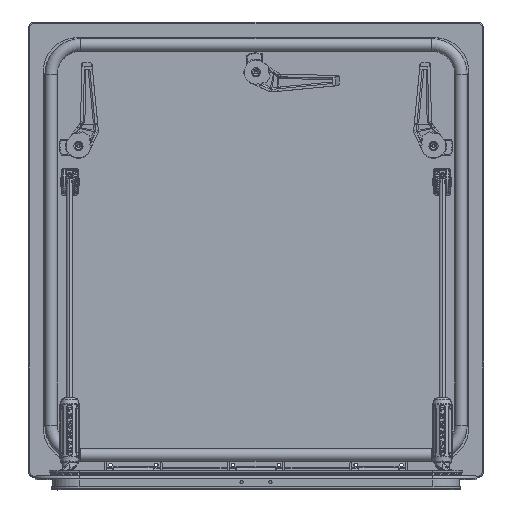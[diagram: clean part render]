
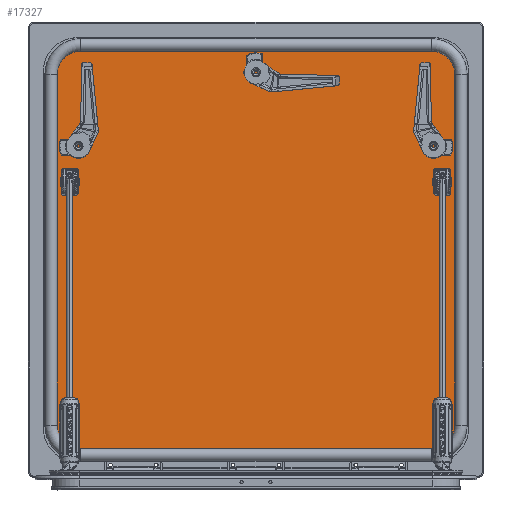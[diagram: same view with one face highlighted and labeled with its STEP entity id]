
A CAD part, top view. The second image highlights one B-rep face of the part: STEP entity #17327.
In plain terms, the highlighted planar face has unit normal (0, 0.005, 1) as drawn and (0, -1, 0) by its records, which use the part's own axes.
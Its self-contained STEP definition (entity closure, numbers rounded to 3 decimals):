
#15138=DIRECTION('',(-1.,0.,0.));
#15139=VECTOR('',#15138,547.);
#15140=CARTESIAN_POINT('',(273.5,0.,-303.5));
#15141=LINE('',#15140,#15139);
#15142=CARTESIAN_POINT('',(-273.5,0.,-272.5));
#15143=DIRECTION('',(0.,-1.,0.));
#15144=DIRECTION('',(-1.,0.,0.));
#15145=AXIS2_PLACEMENT_3D('',#15142,#15143,#15144);
#15147=DIRECTION('',(0.,0.,1.));
#15148=VECTOR('',#15147,545.);
#15149=CARTESIAN_POINT('',(-304.5,0.,-272.5));
#15150=LINE('',#15149,#15148);
#15151=CARTESIAN_POINT('',(-273.5,0.,272.5));
#15152=DIRECTION('',(0.,-1.,0.));
#15153=DIRECTION('',(0.,0.,1.));
#15154=AXIS2_PLACEMENT_3D('',#15151,#15152,#15153);
#15156=DIRECTION('',(1.,0.,0.));
#15157=VECTOR('',#15156,547.);
#15158=CARTESIAN_POINT('',(-273.5,0.,303.5));
#15159=LINE('',#15158,#15157);
#15160=CARTESIAN_POINT('',(273.5,0.,272.5));
#15161=DIRECTION('',(0.,-1.,0.));
#15162=DIRECTION('',(1.,0.,0.));
#15163=AXIS2_PLACEMENT_3D('',#15160,#15161,#15162);
#15165=DIRECTION('',(0.,0.,-1.));
#15166=VECTOR('',#15165,545.);
#15167=CARTESIAN_POINT('',(304.5,0.,272.5));
#15168=LINE('',#15167,#15166);
#15169=CARTESIAN_POINT('',(273.5,0.,-272.5));
#15170=DIRECTION('',(0.,-1.,0.));
#15171=DIRECTION('',(0.,0.,-1.));
#15172=AXIS2_PLACEMENT_3D('',#15169,#15170,#15171);
#15238=CARTESIAN_POINT('',(294.,0.,87.));
#15239=DIRECTION('',(0.,-1.,0.));
#15240=DIRECTION('',(0.,0.,-1.));
#15241=AXIS2_PLACEMENT_3D('',#15238,#15239,#15240);
#15243=DIRECTION('',(0.,0.,1.));
#15244=VECTOR('',#15243,34.);
#15245=CARTESIAN_POINT('',(298.,0.,87.));
#15246=LINE('',#15245,#15244);
#15247=CARTESIAN_POINT('',(294.,0.,121.));
#15248=DIRECTION('',(0.,-1.,0.));
#15249=DIRECTION('',(1.,0.,0.));
#15250=AXIS2_PLACEMENT_3D('',#15247,#15248,#15249);
#15252=DIRECTION('',(-1.,0.,0.));
#15253=VECTOR('',#15252,18.);
#15254=CARTESIAN_POINT('',(294.,0.,125.));
#15255=LINE('',#15254,#15253);
#15256=CARTESIAN_POINT('',(276.,0.,121.));
#15257=DIRECTION('',(0.,-1.,0.));
#15258=DIRECTION('',(0.,0.,1.));
#15259=AXIS2_PLACEMENT_3D('',#15256,#15257,#15258);
#15261=DIRECTION('',(0.,0.,-1.));
#15262=VECTOR('',#15261,34.);
#15263=CARTESIAN_POINT('',(272.,0.,121.));
#15264=LINE('',#15263,#15262);
#15265=CARTESIAN_POINT('',(276.,0.,87.));
#15266=DIRECTION('',(0.,-1.,0.));
#15267=DIRECTION('',(-1.,0.,0.));
#15268=AXIS2_PLACEMENT_3D('',#15265,#15266,#15267);
#15270=DIRECTION('',(1.,0.,0.));
#15271=VECTOR('',#15270,18.);
#15272=CARTESIAN_POINT('',(276.,0.,83.));
#15273=LINE('',#15272,#15271);
#15274=CARTESIAN_POINT('',(-294.,0.,87.));
#15275=DIRECTION('',(0.,1.,0.));
#15276=DIRECTION('',(0.,0.,-1.));
#15277=AXIS2_PLACEMENT_3D('',#15274,#15275,#15276);
#15279=DIRECTION('',(-1.,0.,0.));
#15280=VECTOR('',#15279,18.);
#15281=CARTESIAN_POINT('',(-276.,0.,83.));
#15282=LINE('',#15281,#15280);
#15283=CARTESIAN_POINT('',(-276.,0.,87.));
#15284=DIRECTION('',(0.,1.,0.));
#15285=DIRECTION('',(1.,0.,0.));
#15286=AXIS2_PLACEMENT_3D('',#15283,#15284,#15285);
#15288=DIRECTION('',(0.,0.,-1.));
#15289=VECTOR('',#15288,34.);
#15290=CARTESIAN_POINT('',(-272.,0.,121.));
#15291=LINE('',#15290,#15289);
#15292=CARTESIAN_POINT('',(-276.,0.,121.));
#15293=DIRECTION('',(0.,1.,0.));
#15294=DIRECTION('',(0.,0.,1.));
#15295=AXIS2_PLACEMENT_3D('',#15292,#15293,#15294);
#15297=DIRECTION('',(1.,0.,0.));
#15298=VECTOR('',#15297,18.);
#15299=CARTESIAN_POINT('',(-294.,0.,125.));
#15300=LINE('',#15299,#15298);
#15301=CARTESIAN_POINT('',(-294.,0.,121.));
#15302=DIRECTION('',(0.,1.,0.));
#15303=DIRECTION('',(-1.,0.,0.));
#15304=AXIS2_PLACEMENT_3D('',#15301,#15302,#15303);
#15306=DIRECTION('',(0.,0.,1.));
#15307=VECTOR('',#15306,34.);
#15308=CARTESIAN_POINT('',(-298.,0.,87.));
#15309=LINE('',#15308,#15307);
#16904=CARTESIAN_POINT('',(273.5,0.,-303.5));
#16905=CARTESIAN_POINT('',(-273.5,0.,-303.5));
#16906=VERTEX_POINT('',#16904);
#16907=VERTEX_POINT('',#16905);
#16908=CARTESIAN_POINT('',(-304.5,0.,-272.5));
#16909=VERTEX_POINT('',#16908);
#16910=CARTESIAN_POINT('',(-304.5,0.,272.5));
#16911=VERTEX_POINT('',#16910);
#16912=CARTESIAN_POINT('',(-273.5,0.,303.5));
#16913=VERTEX_POINT('',#16912);
#16914=CARTESIAN_POINT('',(273.5,0.,303.5));
#16915=VERTEX_POINT('',#16914);
#16916=CARTESIAN_POINT('',(304.5,0.,272.5));
#16917=VERTEX_POINT('',#16916);
#16918=CARTESIAN_POINT('',(304.5,0.,-272.5));
#16919=VERTEX_POINT('',#16918);
#17172=CARTESIAN_POINT('',(294.,0.,83.));
#17173=CARTESIAN_POINT('',(298.,0.,87.));
#17174=VERTEX_POINT('',#17172);
#17175=VERTEX_POINT('',#17173);
#17176=CARTESIAN_POINT('',(298.,0.,121.));
#17177=VERTEX_POINT('',#17176);
#17178=CARTESIAN_POINT('',(294.,0.,125.));
#17179=VERTEX_POINT('',#17178);
#17180=CARTESIAN_POINT('',(276.,0.,125.));
#17181=VERTEX_POINT('',#17180);
#17182=CARTESIAN_POINT('',(272.,0.,121.));
#17183=VERTEX_POINT('',#17182);
#17184=CARTESIAN_POINT('',(272.,0.,87.));
#17185=VERTEX_POINT('',#17184);
#17186=CARTESIAN_POINT('',(276.,0.,83.));
#17187=VERTEX_POINT('',#17186);
#17212=CARTESIAN_POINT('',(-294.,0.,83.));
#17213=VERTEX_POINT('',#17212);
#17214=CARTESIAN_POINT('',(-298.,0.,87.));
#17215=VERTEX_POINT('',#17214);
#17216=CARTESIAN_POINT('',(-298.,0.,121.));
#17217=VERTEX_POINT('',#17216);
#17218=CARTESIAN_POINT('',(-294.,0.,125.));
#17219=VERTEX_POINT('',#17218);
#17220=CARTESIAN_POINT('',(-276.,0.,125.));
#17221=VERTEX_POINT('',#17220);
#17222=CARTESIAN_POINT('',(-272.,0.,121.));
#17223=VERTEX_POINT('',#17222);
#17224=CARTESIAN_POINT('',(-272.,0.,87.));
#17225=VERTEX_POINT('',#17224);
#17226=CARTESIAN_POINT('',(-276.,0.,83.));
#17227=VERTEX_POINT('',#17226);
#17268=CARTESIAN_POINT('',(0.,0.,0.));
#17269=DIRECTION('',(0.,1.,0.));
#17270=DIRECTION('',(1.,0.,0.));
#17271=AXIS2_PLACEMENT_3D('',#17268,#17269,#17270);
#17272=PLANE('',#17271);
#17274=ORIENTED_EDGE('',*,*,#17273,.T.);
#17276=ORIENTED_EDGE('',*,*,#17275,.F.);
#17278=ORIENTED_EDGE('',*,*,#17277,.T.);
#17280=ORIENTED_EDGE('',*,*,#17279,.F.);
#17282=ORIENTED_EDGE('',*,*,#17281,.T.);
#17284=ORIENTED_EDGE('',*,*,#17283,.F.);
#17286=ORIENTED_EDGE('',*,*,#17285,.T.);
#17288=ORIENTED_EDGE('',*,*,#17287,.F.);
#17289=EDGE_LOOP('',(#17274,#17276,#17278,#17280,#17282,#17284,#17286,#17288));
#17290=FACE_OUTER_BOUND('',#17289,.F.);
#17292=ORIENTED_EDGE('',*,*,#17291,.T.);
#17294=ORIENTED_EDGE('',*,*,#17293,.T.);
#17296=ORIENTED_EDGE('',*,*,#17295,.T.);
#17298=ORIENTED_EDGE('',*,*,#17297,.T.);
#17300=ORIENTED_EDGE('',*,*,#17299,.T.);
#17302=ORIENTED_EDGE('',*,*,#17301,.T.);
#17304=ORIENTED_EDGE('',*,*,#17303,.T.);
#17306=ORIENTED_EDGE('',*,*,#17305,.T.);
#17307=EDGE_LOOP('',(#17292,#17294,#17296,#17298,#17300,#17302,#17304,#17306));
#17308=FACE_BOUND('',#17307,.F.);
#17310=ORIENTED_EDGE('',*,*,#17309,.F.);
#17312=ORIENTED_EDGE('',*,*,#17311,.F.);
#17314=ORIENTED_EDGE('',*,*,#17313,.F.);
#17316=ORIENTED_EDGE('',*,*,#17315,.F.);
#17318=ORIENTED_EDGE('',*,*,#17317,.F.);
#17320=ORIENTED_EDGE('',*,*,#17319,.F.);
#17322=ORIENTED_EDGE('',*,*,#17321,.F.);
#17324=ORIENTED_EDGE('',*,*,#17323,.F.);
#17325=EDGE_LOOP('',(#17310,#17312,#17314,#17316,#17318,#17320,#17322,#17324));
#17326=FACE_BOUND('',#17325,.F.);
#17327=ADVANCED_FACE('',(#17290,#17308,#17326),#17272,.F.);
#15146=CIRCLE('',#15145,31.);
#15155=CIRCLE('',#15154,31.);
#15164=CIRCLE('',#15163,31.);
#15173=CIRCLE('',#15172,31.);
#15242=CIRCLE('',#15241,4.);
#15251=CIRCLE('',#15250,4.);
#15260=CIRCLE('',#15259,4.);
#15269=CIRCLE('',#15268,4.);
#15278=CIRCLE('',#15277,4.);
#15287=CIRCLE('',#15286,4.);
#15296=CIRCLE('',#15295,4.);
#15305=CIRCLE('',#15304,4.);
#17273=EDGE_CURVE('',#16906,#16907,#15141,.T.);
#17275=EDGE_CURVE('',#16909,#16907,#15146,.T.);
#17277=EDGE_CURVE('',#16909,#16911,#15150,.T.);
#17279=EDGE_CURVE('',#16913,#16911,#15155,.T.);
#17281=EDGE_CURVE('',#16913,#16915,#15159,.T.);
#17283=EDGE_CURVE('',#16917,#16915,#15164,.T.);
#17285=EDGE_CURVE('',#16917,#16919,#15168,.T.);
#17287=EDGE_CURVE('',#16906,#16919,#15173,.T.);
#17291=EDGE_CURVE('',#17174,#17175,#15242,.T.);
#17293=EDGE_CURVE('',#17175,#17177,#15246,.T.);
#17295=EDGE_CURVE('',#17177,#17179,#15251,.T.);
#17297=EDGE_CURVE('',#17179,#17181,#15255,.T.);
#17299=EDGE_CURVE('',#17181,#17183,#15260,.T.);
#17301=EDGE_CURVE('',#17183,#17185,#15264,.T.);
#17303=EDGE_CURVE('',#17185,#17187,#15269,.T.);
#17305=EDGE_CURVE('',#17187,#17174,#15273,.T.);
#17309=EDGE_CURVE('',#17213,#17215,#15278,.T.);
#17311=EDGE_CURVE('',#17227,#17213,#15282,.T.);
#17313=EDGE_CURVE('',#17225,#17227,#15287,.T.);
#17315=EDGE_CURVE('',#17223,#17225,#15291,.T.);
#17317=EDGE_CURVE('',#17221,#17223,#15296,.T.);
#17319=EDGE_CURVE('',#17219,#17221,#15300,.T.);
#17321=EDGE_CURVE('',#17217,#17219,#15305,.T.);
#17323=EDGE_CURVE('',#17215,#17217,#15309,.T.);
